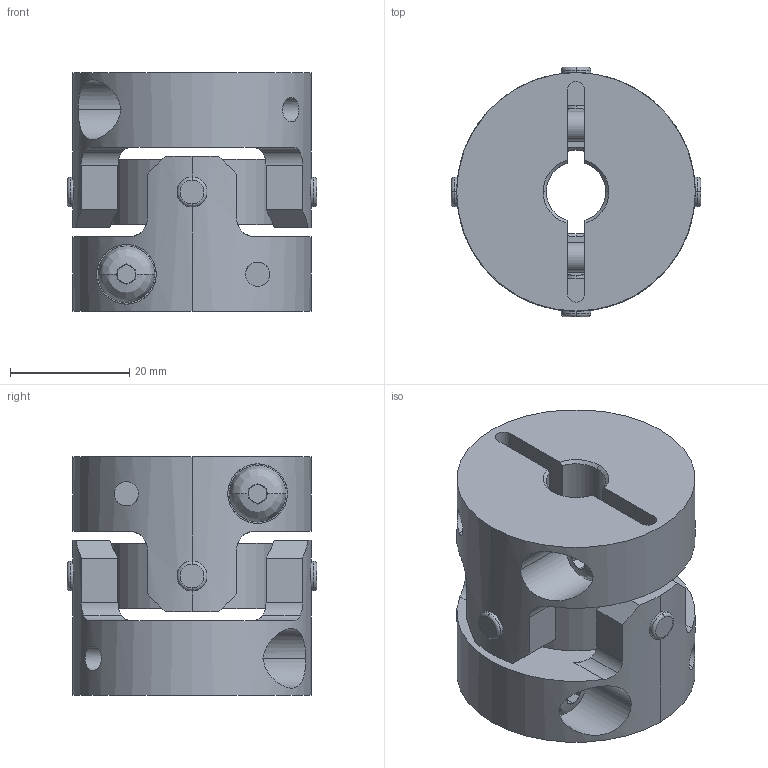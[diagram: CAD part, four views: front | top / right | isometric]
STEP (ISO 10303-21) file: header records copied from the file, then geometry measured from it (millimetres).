
FILE_DESCRIPTION((''),'2;1');
FILE_NAME('UA-40C-10×14.stp','2013-05-22T09:37:06',(''),(''),'AutoCAD STEP 2000i','AutoCAD 2000i',', , ');
FILE_SCHEMA(('CONFIG_CONTROL_DESIGN'));
Length unit declared in the file: millimetre
Products named in the file (6): UA-40C-8×8; 忣兜1; UA-4002-D08-1; BTN-M5; UA-4002-D08; UA40-SEN
Assembly tree (6 placements, depth 3):
  UA-40C-8×8
    忣兜1
    UA-4002-D08-1
      BTN-M5
    UA-4002-D08
      BTN-M5
    UA40-SEN
Bounding box: 41.81 x 41.81 x 40 mm (x, y, z)
Volume: 33867.6 mm3; surface area: 15573.5 mm2
Topology: 1 solids, 1 shells, 250 faces, 646 edges, 408 vertices
Faces by surface type: plane 122, cylinder 96, cone 16, bspline 8, torus 8
Entity records: 9627 total; most frequent: CARTESIAN_POINT 3371, ORIENTED_EDGE 1292, DIRECTION 1288, EDGE_CURVE 646, AXIS2_PLACEMENT_3D 497, VERTEX_POINT 408, VECTOR 294, LINE 294
